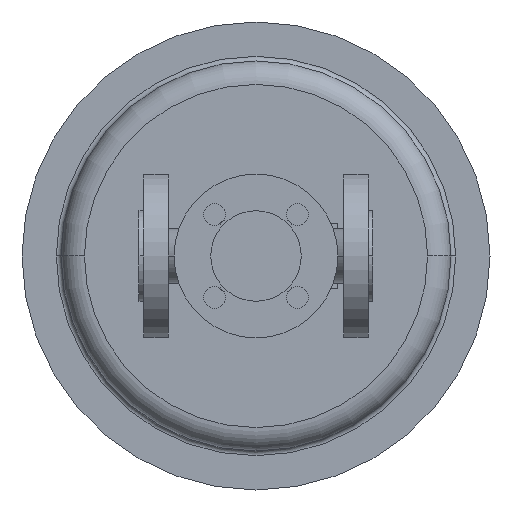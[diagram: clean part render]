
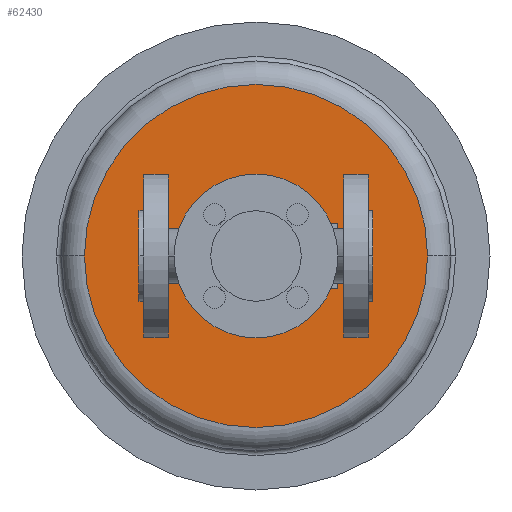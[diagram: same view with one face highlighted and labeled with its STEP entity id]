
A CAD part, front view. The second image highlights one B-rep face of the part: STEP entity #62430.
In plain terms, the highlighted planar face has unit normal (0, -1, 0).
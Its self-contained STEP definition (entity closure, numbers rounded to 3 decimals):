
#48580=CARTESIAN_POINT('',(-35.,541.,0.));
#48590=VERTEX_POINT('',#48580);
#48690=CARTESIAN_POINT('',(185.,541.,0.));
#48700=VERTEX_POINT('',#48690);
#48730=CARTESIAN_POINT('',(75.,541.,0.));
#48740=DIRECTION('',(0.,1.,0.));
#48750=DIRECTION('',(1.,0.,0.));
#48760=AXIS2_PLACEMENT_3D('',#48730,#48740,#48750);
#48770=CIRCLE('',#48760,110.);
#48780=CARTESIAN_POINT('',(75.,541.,110.));
#48790=VERTEX_POINT('',#48780);
#48800=EDGE_CURVE('',#48790,#48700,#48770,.T.);
#48820=EDGE_CURVE('',#48590,#48790,#48770,.T.);
#49400=CARTESIAN_POINT('',(140.,541.,0.));
#49410=VERTEX_POINT('',#49400);
#49440=CARTESIAN_POINT('',(125.,541.,0.));
#49450=DIRECTION('',(0.,1.,0.));
#49460=DIRECTION('',(1.,0.,0.));
#49470=AXIS2_PLACEMENT_3D('',#49440,#49450,#49460);
#49480=CIRCLE('',#49470,15.);
#49490=CARTESIAN_POINT('',(110.,541.,0.));
#49500=VERTEX_POINT('',#49490);
#49510=EDGE_CURVE('',#49410,#49500,#49480,.T.);
#49820=CARTESIAN_POINT('',(40.,541.,0.));
#49830=VERTEX_POINT('',#49820);
#49860=CARTESIAN_POINT('',(25.,541.,0.));
#49870=DIRECTION('',(0.,1.,0.));
#49880=DIRECTION('',(1.,0.,0.));
#49890=AXIS2_PLACEMENT_3D('',#49860,#49870,#49880);
#49900=CIRCLE('',#49890,15.);
#49910=CARTESIAN_POINT('',(10.,541.,0.));
#49920=VERTEX_POINT('',#49910);
#49930=EDGE_CURVE('',#49830,#49920,#49900,.T.);
#50220=CARTESIAN_POINT('',(56.55,541.,0.));
#50230=VERTEX_POINT('',#50220);
#50410=CARTESIAN_POINT('',(93.45,541.,0.));
#50420=VERTEX_POINT('',#50410);
#50450=CARTESIAN_POINT('',(75.,541.,0.));
#50460=DIRECTION('',(0.,1.,0.));
#50470=DIRECTION('',(1.,0.,0.));
#50480=AXIS2_PLACEMENT_3D('',#50450,#50460,#50470);
#50490=CIRCLE('',#50480,18.45);
#50500=EDGE_CURVE('',#50420,#50230,#50490,.T.);
#62170=CARTESIAN_POINT('',(130.,541.,0.));
#62180=DIRECTION('',(0.,-1.,0.));
#62190=DIRECTION('',(-1.,0.,0.));
#62200=AXIS2_PLACEMENT_3D('',#62170,#62180,#62190);
#62210=PLANE('',#62200);
#62220=EDGE_CURVE('',#50230,#50420,#50490,.T.);
#62230=ORIENTED_EDGE('',*,*,#62220,.T.);
#62240=ORIENTED_EDGE('',*,*,#50500,.T.);
#62250=EDGE_LOOP('',(#62240,#62230));
#62260=FACE_BOUND('',#62250,.T.);
#62270=ORIENTED_EDGE('',*,*,#49930,.T.);
#62280=EDGE_CURVE('',#49920,#49830,#49900,.T.);
#62290=ORIENTED_EDGE('',*,*,#62280,.T.);
#62300=EDGE_LOOP('',(#62290,#62270));
#62310=FACE_BOUND('',#62300,.T.);
#62320=EDGE_CURVE('',#49500,#49410,#49480,.T.);
#62330=ORIENTED_EDGE('',*,*,#62320,.T.);
#62340=ORIENTED_EDGE('',*,*,#49510,.T.);
#62350=EDGE_LOOP('',(#62340,#62330));
#62360=FACE_BOUND('',#62350,.T.);
#62370=ORIENTED_EDGE('',*,*,#48800,.F.);
#62380=EDGE_CURVE('',#48700,#48590,#48770,.T.);
#62390=ORIENTED_EDGE('',*,*,#62380,.F.);
#62400=ORIENTED_EDGE('',*,*,#48820,.F.);
#62410=EDGE_LOOP('',(#62400,#62390,#62370));
#62420=FACE_OUTER_BOUND('',#62410,.T.);
#62430=ADVANCED_FACE('',(#62260,#62310,#62360,#62420),#62210,.T.);
